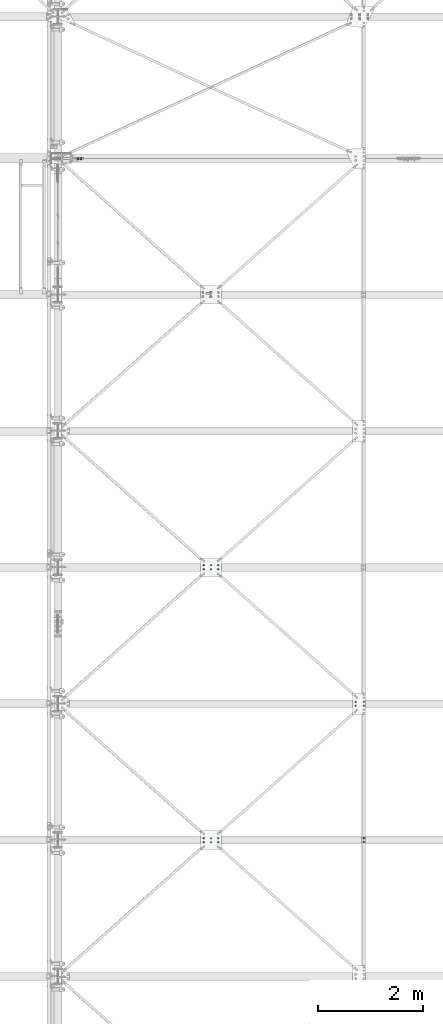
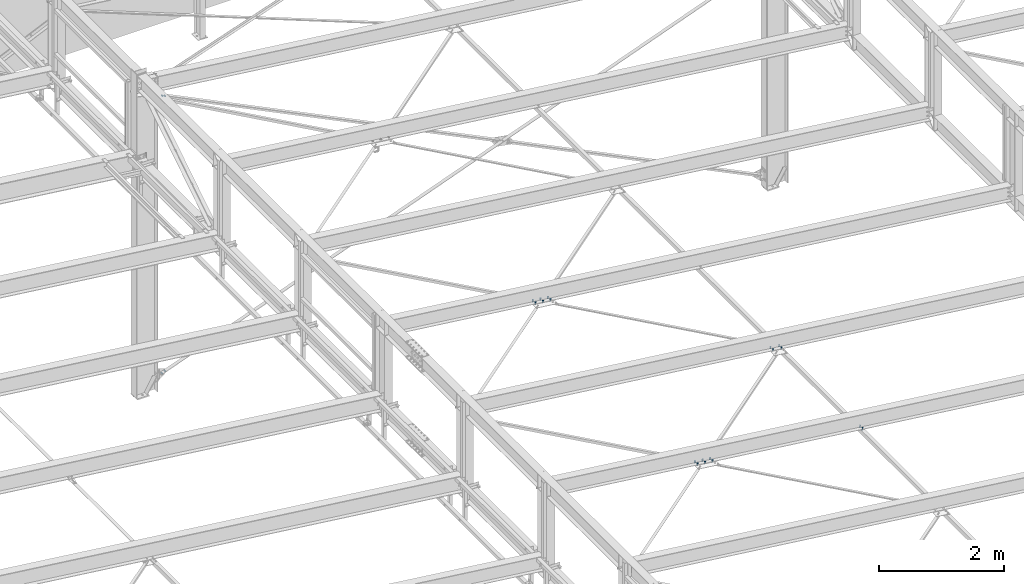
# One storey, part 286 of 3134: 6 mechanical fasteners, 6 elements without a shape of their own.
"""IFC2X3 building model written with IfcOpenShell, lengths in millimetres."""

from ifc_helpers import new_model, si_unit, frame, origin_with_axes, place, context, subcontext, project, spatial, faceted_brep, source, transform, mapped, material, type_object, element, aggregate, save


model = new_model("IFC2X3")

# Units and contexts
model_context = context("Model", 3, precision=1e-05, world=origin_with_axes())
body_context = subcontext(model_context, "Body", "Model", "MODEL_VIEW")
ifc_project = project(units=[si_unit("LENGTHUNIT", "METRE", prefix="MILLI"), si_unit("AREAUNIT", "SQUARE_METRE"), si_unit("VOLUMEUNIT", "CUBIC_METRE"), si_unit("MASSUNIT", "GRAM", prefix="KILO"), si_unit("TIMEUNIT", "SECOND"), si_unit("PLANEANGLEUNIT", "RADIAN"), si_unit("SOLIDANGLEUNIT", "STERADIAN"), si_unit("THERMODYNAMICTEMPERATUREUNIT", "DEGREE_CELSIUS"), si_unit("LUMINOUSINTENSITYUNIT", "LUMEN")], contexts=[model_context])

# Site, building, storey
site_placement = place(None, origin_with_axes())
site = spatial("IfcSite", under=ifc_project, at=site_placement, CompositionType="ELEMENT")
building_placement = place(site_placement, origin_with_axes())
building = spatial("IfcBuilding", under=site, at=building_placement, Name="Undefined", CompositionType="ELEMENT")
storey_placement = place(building_placement, origin_with_axes())
storey = spatial("IfcBuildingStorey", under=building, at=storey_placement, Name="Undefined", CompositionType="ELEMENT", Elevation=0.0)

# Assembly, mechanical fastener
assembly_1_placement = place(storey_placement, origin_with_axes())
assembly_1 = element("IfcElementAssembly", 1, at=assembly_1_placement, inside=storey, Name="300", AssemblyPlace="NOTDEFINED", PredefinedType="RIGID_FRAME")
ifc_material = material(Name="8.8")
mechanical_fastener_type = type_object("IfcMechanicalFastenerType", Name="Bolt assembly")
shared_shape_1 = source(origin_with_axes(), body_context, "Body", "Brep", [
    faceted_brep([(13.856406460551, -19.199990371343, 0.0), (6.92820323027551, -19.199990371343, 12.0), (-6.92820323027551, -19.199990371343, 12.0), (-13.856406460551, -19.199990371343, 1.69692038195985e-15), (-6.92820323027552, -19.199990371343, -12.0), (6.9282032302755, -19.199990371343, -12.0), (6.9282032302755, -9.19999037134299, -12.0), (-6.92820323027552, -9.19999037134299, -12.0), (-13.856406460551, -9.19999037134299, 1.69692038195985e-15), (-6.92820323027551, -9.19999037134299, 12.0), (6.92820323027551, -9.19999037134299, 12.0), (13.856406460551, -9.19999037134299, 0.0), (8.0, -9.19999037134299, 0.0), (6.92820323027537, -9.19999037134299, 4.00000000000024), (3.99999999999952, -9.19999037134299, 6.92820323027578), (-8.29068785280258e-13, -9.19999037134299, 8.0), (-4.00000000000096, -9.19999037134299, 6.92820323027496), (-6.9282032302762, -9.19999037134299, 3.99999999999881), (-8.0, -9.19999037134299, -1.65813757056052e-12), (-6.92820323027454, -9.19999037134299, -4.00000000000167), (-3.99999999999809, -9.19999037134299, -6.92820323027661), (2.47832457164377e-12, -9.19999037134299, -8.0), (4.00000000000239, -9.19999037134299, -6.92820323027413), (6.92820323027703, -9.19999037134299, -3.99999999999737), (6.92820323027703, 25.800009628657, -3.99999999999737), (4.00000000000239, 25.800009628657, -6.92820323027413), (2.47832457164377e-12, 25.800009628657, -8.0), (-3.99999999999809, 25.800009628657, -6.92820323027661), (-6.92820323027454, 25.800009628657, -4.00000000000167), (-8.0, 25.800009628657, -1.65813757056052e-12), (-6.9282032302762, 25.800009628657, 3.99999999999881), (-4.00000000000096, 25.800009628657, 6.92820323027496), (-8.29068785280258e-13, 25.800009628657, 8.0), (3.99999999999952, 25.800009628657, 6.92820323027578), (6.92820323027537, 25.800009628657, 4.00000000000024), (8.0, 25.800009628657, 0.0), (13.856406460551, 8.00000637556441, 0.0), (6.92820323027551, 8.00000637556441, 12.0), (-6.92820323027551, 8.00000637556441, 12.0), (-13.856406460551, 8.00000637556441, 1.69692038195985e-15), (-6.92820323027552, 8.00000637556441, -12.0), (6.9282032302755, 8.00000637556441, -12.0), (6.9282032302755, 21.0000063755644, -12.0), (-6.92820323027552, 21.0000063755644, -12.0), (-13.856406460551, 21.0000063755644, 1.69692038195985e-15), (-6.92820323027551, 21.0000063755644, 12.0), (6.92820323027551, 21.0000063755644, 12.0), (13.856406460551, 21.0000063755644, 0.0)], [[[0, 1, 2, 3, 4, 5]], [[6, 7, 8, 9, 10, 11]], [[0, 11, 10, 1]], [[1, 10, 9, 2]], [[2, 9, 8, 3]], [[3, 8, 7, 4]], [[4, 7, 6, 5]], [[5, 6, 11, 0]], [[12, 13, 14, 15, 16, 17, 18, 19, 20, 21, 22, 23]], [[24, 25, 26, 27, 28, 29, 30, 31, 32, 33, 34, 35]], [[12, 35, 34, 13]], [[13, 34, 33, 14]], [[14, 33, 32, 15]], [[15, 32, 31, 16]], [[16, 31, 30, 17]], [[17, 30, 29, 18]], [[18, 29, 28, 19]], [[19, 28, 27, 20]], [[20, 27, 26, 21]], [[21, 26, 25, 22]], [[22, 25, 24, 23]], [[23, 24, 35, 12]], [[36, 37, 38, 39, 40, 41]], [[42, 43, 44, 45, 46, 47]], [[36, 47, 46, 37]], [[37, 46, 45, 38]], [[38, 45, 44, 39]], [[39, 44, 43, 40]], [[40, 43, 42, 41]], [[41, 42, 47, 36]]]),
    faceted_brep([(9.0, -0.1, 0.0), (7.79422863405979, -0.1, 4.50000000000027), (4.49999999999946, -0.1, 7.79422863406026), (-9.3270238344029e-13, -0.1, 9.0), (-4.50000000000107, -0.1, 7.79422863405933), (-7.79422863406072, -0.1, 4.49999999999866), (-9.0, -0.1, -1.86540476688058e-12), (-7.79422863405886, -0.1, -4.50000000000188), (-4.49999999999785, -0.1, -7.79422863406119), (2.78811514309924e-12, -0.1, -9.0), (4.50000000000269, -0.1, -7.7942286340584), (7.79422863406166, -0.1, -4.49999999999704), (7.79422863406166, 8.00000000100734, -4.49999999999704), (4.50000000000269, 8.00000000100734, -7.7942286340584), (2.78811514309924e-12, 8.00000000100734, -9.0), (-4.49999999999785, 8.00000000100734, -7.79422863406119), (-7.79422863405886, 8.00000000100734, -4.50000000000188), (-9.0, 8.00000000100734, -1.86540476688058e-12), (-7.79422863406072, 8.00000000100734, 4.49999999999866), (-4.50000000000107, 8.00000000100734, 7.79422863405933), (-9.3270238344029e-13, 8.00000000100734, 9.0), (4.49999999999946, 8.00000000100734, 7.79422863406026), (7.79422863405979, 8.00000000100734, 4.50000000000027), (9.0, 8.00000000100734, 0.0), (9.0, -9.09999037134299, 0.0), (7.79422863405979, -9.09999037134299, 4.50000000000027), (4.49999999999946, -9.09999037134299, 7.79422863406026), (-9.3270238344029e-13, -9.09999037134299, 9.0), (-4.50000000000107, -9.09999037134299, 7.79422863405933), (-7.79422863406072, -9.09999037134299, 4.49999999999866), (-9.0, -9.09999037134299, -1.86540476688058e-12), (-7.79422863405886, -9.09999037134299, -4.50000000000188), (-4.49999999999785, -9.09999037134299, -7.79422863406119), (2.78811514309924e-12, -9.09999037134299, -9.0), (4.50000000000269, -9.09999037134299, -7.7942286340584), (7.79422863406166, -9.09999037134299, -4.49999999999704), (7.79422863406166, 0.100000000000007, -4.49999999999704), (4.50000000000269, 0.100000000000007, -7.7942286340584), (2.78811514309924e-12, 0.100000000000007, -9.0), (-4.49999999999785, 0.100000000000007, -7.79422863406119), (-7.79422863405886, 0.100000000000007, -4.50000000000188), (-9.0, 0.100000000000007, -1.86540476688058e-12), (-7.79422863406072, 0.100000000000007, 4.49999999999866), (-4.50000000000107, 0.100000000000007, 7.79422863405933), (-9.3270238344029e-13, 0.100000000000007, 9.0), (4.49999999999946, 0.100000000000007, 7.79422863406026), (7.79422863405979, 0.100000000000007, 4.50000000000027), (9.0, 0.100000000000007, 0.0)], [[[0, 1, 2, 3, 4, 5, 6, 7, 8, 9, 10, 11]], [[12, 13, 14, 15, 16, 17, 18, 19, 20, 21, 22, 23]], [[0, 23, 22, 1]], [[1, 22, 21, 2]], [[2, 21, 20, 3]], [[3, 20, 19, 4]], [[4, 19, 18, 5]], [[5, 18, 17, 6]], [[6, 17, 16, 7]], [[7, 16, 15, 8]], [[8, 15, 14, 9]], [[9, 14, 13, 10]], [[10, 13, 12, 11]], [[11, 12, 23, 0]], [[24, 25, 26, 27, 28, 29, 30, 31, 32, 33, 34, 35]], [[36, 37, 38, 39, 40, 41, 42, 43, 44, 45, 46, 47]], [[24, 47, 46, 25]], [[25, 46, 45, 26]], [[26, 45, 44, 27]], [[27, 44, 43, 28]], [[28, 43, 42, 29]], [[29, 42, 41, 30]], [[30, 41, 40, 31]], [[31, 40, 39, 32]], [[32, 39, 38, 33]], [[33, 38, 37, 34]], [[34, 37, 36, 35]], [[35, 36, 47, 24]]]),
])
mechanical_fastener_1_placement = place(assembly_1_placement, frame((49958.5751064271, 50612.0, 4816.43281405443), z_axis=(-0.992623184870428, 0.0, 0.121240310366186), x_axis=(0.0, 1.0, 0.0)))
mechanical_fastener_1 = element("IfcMechanicalFastener", 2, at=mechanical_fastener_1_placement, type_object=mechanical_fastener_type, material=ifc_material, Name="Bolt assembly", NominalDiameter=16.0, NominalLength=35.0, context=body_context, shape_type="MappedRepresentation", body=[
    mapped(shared_shape_1, transform((0.0, -5.32963895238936e-10, -79.9999999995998))),
    mapped(shared_shape_1, transform((76.0, -5.32963895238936e-10, -79.9999999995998))),
    mapped(shared_shape_1, transform((0.0, 5.3114490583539e-10, 79.9999999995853))),
    mapped(shared_shape_1, transform((76.0, 5.3114490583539e-10, 79.9999999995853))),
])
aggregate(assembly_1, [mechanical_fastener_1])

assembly_2_placement = place(storey_placement, origin_with_axes())
assembly_2 = element("IfcElementAssembly", 3, at=assembly_2_placement, inside=storey, AssemblyPlace="NOTDEFINED", PredefinedType="RIGID_FRAME")
shared_shape_2 = source(origin_with_axes(), body_context, "Body", "Brep", [
    faceted_brep([(13.856406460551, -19.199990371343, 0.0), (6.92820323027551, -19.199990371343, 12.0), (-6.92820323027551, -19.199990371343, 12.0), (-13.856406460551, -19.199990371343, 1.69692038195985e-15), (-6.92820323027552, -19.199990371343, -12.0), (6.9282032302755, -19.199990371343, -12.0), (6.9282032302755, -9.19999037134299, -12.0), (-6.92820323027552, -9.19999037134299, -12.0), (-13.856406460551, -9.19999037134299, 1.69692038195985e-15), (-6.92820323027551, -9.19999037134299, 12.0), (6.92820323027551, -9.19999037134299, 12.0), (13.856406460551, -9.19999037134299, 0.0), (8.0, -9.19999037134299, 0.0), (6.92820323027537, -9.19999037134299, 4.00000000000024), (3.99999999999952, -9.19999037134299, 6.92820323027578), (-8.29068785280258e-13, -9.19999037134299, 8.0), (-4.00000000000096, -9.19999037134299, 6.92820323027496), (-6.9282032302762, -9.19999037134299, 3.99999999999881), (-8.0, -9.19999037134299, -1.65813757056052e-12), (-6.92820323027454, -9.19999037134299, -4.00000000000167), (-3.99999999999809, -9.19999037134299, -6.92820323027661), (2.47832457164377e-12, -9.19999037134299, -8.0), (4.00000000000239, -9.19999037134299, -6.92820323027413), (6.92820323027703, -9.19999037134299, -3.99999999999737), (6.92820323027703, 35.8000002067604, -3.99999999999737), (4.00000000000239, 35.8000002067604, -6.92820323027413), (2.47832457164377e-12, 35.8000002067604, -8.0), (-3.99999999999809, 35.8000002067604, -6.92820323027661), (-6.92820323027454, 35.8000002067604, -4.00000000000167), (-8.0, 35.8000002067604, -1.65813757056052e-12), (-6.9282032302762, 35.8000002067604, 3.99999999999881), (-4.00000000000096, 35.8000002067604, 6.92820323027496), (-8.29068785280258e-13, 35.8000002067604, 8.0), (3.99999999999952, 35.8000002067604, 6.92820323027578), (6.92820323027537, 35.8000002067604, 4.00000000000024), (8.0, 35.8000002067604, 0.0), (13.856406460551, 14.9999995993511, 0.0), (6.92820323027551, 14.9999995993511, 12.0), (-6.92820323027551, 14.9999995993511, 12.0), (-13.856406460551, 14.9999995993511, 1.69692038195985e-15), (-6.92820323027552, 14.9999995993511, -12.0), (6.9282032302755, 14.9999995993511, -12.0), (6.9282032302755, 27.9999995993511, -12.0), (-6.92820323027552, 27.9999995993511, -12.0), (-13.856406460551, 27.9999995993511, 1.69692038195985e-15), (-6.92820323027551, 27.9999995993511, 12.0), (6.92820323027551, 27.9999995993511, 12.0), (13.856406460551, 27.9999995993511, 0.0)], [[[0, 1, 2, 3, 4, 5]], [[6, 7, 8, 9, 10, 11]], [[0, 11, 10, 1]], [[1, 10, 9, 2]], [[2, 9, 8, 3]], [[3, 8, 7, 4]], [[4, 7, 6, 5]], [[5, 6, 11, 0]], [[12, 13, 14, 15, 16, 17, 18, 19, 20, 21, 22, 23]], [[24, 25, 26, 27, 28, 29, 30, 31, 32, 33, 34, 35]], [[12, 35, 34, 13]], [[13, 34, 33, 14]], [[14, 33, 32, 15]], [[15, 32, 31, 16]], [[16, 31, 30, 17]], [[17, 30, 29, 18]], [[18, 29, 28, 19]], [[19, 28, 27, 20]], [[20, 27, 26, 21]], [[21, 26, 25, 22]], [[22, 25, 24, 23]], [[23, 24, 35, 12]], [[36, 37, 38, 39, 40, 41]], [[42, 43, 44, 45, 46, 47]], [[36, 47, 46, 37]], [[37, 46, 45, 38]], [[38, 45, 44, 39]], [[39, 44, 43, 40]], [[40, 43, 42, 41]], [[41, 42, 47, 36]]]),
    faceted_brep([(9.0, -9.09999037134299, 0.0), (7.79422863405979, -9.09999037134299, 4.50000000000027), (4.49999999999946, -9.09999037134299, 7.79422863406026), (-9.3270238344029e-13, -9.09999037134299, 9.0), (-4.50000000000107, -9.09999037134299, 7.79422863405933), (-7.79422863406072, -9.09999037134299, 4.49999999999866), (-9.0, -9.09999037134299, -1.86540476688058e-12), (-7.79422863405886, -9.09999037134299, -4.50000000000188), (-4.49999999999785, -9.09999037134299, -7.79422863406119), (2.78811514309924e-12, -9.09999037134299, -9.0), (4.50000000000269, -9.09999037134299, -7.7942286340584), (7.79422863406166, -9.09999037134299, -4.49999999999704), (7.79422863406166, 0.100000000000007, -4.49999999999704), (4.50000000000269, 0.100000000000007, -7.7942286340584), (2.78811514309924e-12, 0.100000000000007, -9.0), (-4.49999999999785, 0.100000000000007, -7.79422863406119), (-7.79422863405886, 0.100000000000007, -4.50000000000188), (-9.0, 0.100000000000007, -1.86540476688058e-12), (-7.79422863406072, 0.100000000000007, 4.49999999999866), (-4.50000000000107, 0.100000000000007, 7.79422863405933), (-9.3270238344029e-13, 0.100000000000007, 9.0), (4.49999999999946, 0.100000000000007, 7.79422863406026), (7.79422863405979, 0.100000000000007, 4.50000000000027), (9.0, 0.100000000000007, 0.0), (9.0, 7.9, 0.0), (7.79422863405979, 7.9, 4.50000000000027), (4.49999999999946, 7.9, 7.79422863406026), (-9.3270238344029e-13, 7.9, 9.0), (-4.50000000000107, 7.9, 7.79422863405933), (-7.79422863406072, 7.9, 4.49999999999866), (-9.0, 7.9, -1.86540476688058e-12), (-7.79422863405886, 7.9, -4.50000000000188), (-4.49999999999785, 7.9, -7.79422863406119), (2.78811514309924e-12, 7.9, -9.0), (4.50000000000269, 7.9, -7.7942286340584), (7.79422863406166, 7.9, -4.49999999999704), (7.79422863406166, 14.9999995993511, -4.49999999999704), (4.50000000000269, 14.9999995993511, -7.7942286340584), (2.78811514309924e-12, 14.9999995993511, -9.0), (-4.49999999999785, 14.9999995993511, -7.79422863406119), (-7.79422863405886, 14.9999995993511, -4.50000000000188), (-9.0, 14.9999995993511, -1.86540476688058e-12), (-7.79422863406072, 14.9999995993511, 4.49999999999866), (-4.50000000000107, 14.9999995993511, 7.79422863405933), (-9.3270238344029e-13, 14.9999995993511, 9.0), (4.49999999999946, 14.9999995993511, 7.79422863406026), (7.79422863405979, 14.9999995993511, 4.50000000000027), (9.0, 14.9999995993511, 0.0)], [[[0, 1, 2, 3, 4, 5, 6, 7, 8, 9, 10, 11]], [[12, 13, 14, 15, 16, 17, 18, 19, 20, 21, 22, 23]], [[0, 23, 22, 1]], [[1, 22, 21, 2]], [[2, 21, 20, 3]], [[3, 20, 19, 4]], [[4, 19, 18, 5]], [[5, 18, 17, 6]], [[6, 17, 16, 7]], [[7, 16, 15, 8]], [[8, 15, 14, 9]], [[9, 14, 13, 10]], [[10, 13, 12, 11]], [[11, 12, 23, 0]], [[24, 25, 26, 27, 28, 29, 30, 31, 32, 33, 34, 35]], [[36, 37, 38, 39, 40, 41, 42, 43, 44, 45, 46, 47]], [[24, 47, 46, 25]], [[25, 46, 45, 26]], [[26, 45, 44, 27]], [[27, 44, 43, 28]], [[28, 43, 42, 29]], [[29, 42, 41, 30]], [[30, 41, 40, 31]], [[31, 40, 39, 32]], [[32, 39, 38, 33]], [[33, 38, 37, 34]], [[34, 37, 36, 35]], [[35, 36, 47, 24]]]),
])
mechanical_fastener_2_placement = place(assembly_2_placement, frame((50037.9849612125, 48012.0, 4806.73358922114), z_axis=(-0.992623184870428, 0.0, 0.121240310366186), x_axis=(0.0, 1.0, 0.0)))
mechanical_fastener_2 = element("IfcMechanicalFastener", 4, at=mechanical_fastener_2_placement, type_object=mechanical_fastener_type, material=ifc_material, Name="Bolt assembly", NominalDiameter=16.0, NominalLength=45.0, context=body_context, shape_type="MappedRepresentation", body=[
    mapped(shared_shape_2, transform((0.0, 0.0, 0.0))),
    mapped(shared_shape_2, transform((76.0, 0.0, 0.0))),
])
aggregate(assembly_2, [mechanical_fastener_2])

assembly_3_placement = place(storey_placement, origin_with_axes())
assembly_3 = element("IfcElementAssembly", 5, at=assembly_3_placement, inside=storey, Name="300", AssemblyPlace="NOTDEFINED", PredefinedType="RIGID_FRAME")
shared_shape_3 = source(origin_with_axes(), body_context, "Body", "Brep", [
    faceted_brep([(10.9696551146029, -17.1999998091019, 0.0), (5.48482755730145, -17.1999998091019, 9.5), (-5.48482755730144, -17.1999998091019, 9.5), (-10.9696551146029, -17.1999998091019, 1.34339530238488e-15), (-5.48482755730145, -17.1999998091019, -9.5), (5.48482755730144, -17.1999998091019, -9.50000000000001), (5.48482755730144, -9.19999978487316, -9.50000000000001), (-5.48482755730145, -9.19999978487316, -9.5), (-10.9696551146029, -9.19999978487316, 1.34339530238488e-15), (-5.48482755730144, -9.19999978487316, 9.5), (5.48482755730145, -9.19999978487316, 9.5), (10.9696551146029, -9.19999978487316, 0.0), (6.0, -9.19999978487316, 0.0), (5.19615242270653, -9.19999978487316, 3.00000000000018), (2.99999999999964, -9.19999978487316, 5.19615242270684), (-6.21801588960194e-13, -9.19999978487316, 6.0), (-3.00000000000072, -9.19999978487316, 5.19615242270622), (-5.19615242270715, -9.19999978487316, 2.9999999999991), (-6.0, -9.19999978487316, -1.24360317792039e-12), (-5.19615242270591, -9.19999978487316, -3.00000000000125), (-2.99999999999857, -9.19999978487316, -5.19615242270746), (1.85874342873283e-12, -9.19999978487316, -6.0), (3.00000000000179, -9.19999978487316, -5.1961524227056), (5.19615242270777, -9.19999978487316, -2.99999999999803), (5.19615242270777, 25.8000002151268, -2.99999999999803), (3.00000000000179, 25.8000002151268, -5.1961524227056), (1.85874342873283e-12, 25.8000002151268, -6.0), (-2.99999999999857, 25.8000002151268, -5.19615242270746), (-5.19615242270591, 25.8000002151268, -3.00000000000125), (-6.0, 25.8000002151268, -1.24360317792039e-12), (-5.19615242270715, 25.8000002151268, 2.9999999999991), (-3.00000000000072, 25.8000002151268, 5.19615242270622), (-6.21801588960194e-13, 25.8000002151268, 6.0), (2.99999999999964, 25.8000002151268, 5.19615242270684), (5.19615242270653, 25.8000002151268, 3.00000000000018), (6.0, 25.8000002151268, 0.0), (10.9696551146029, 8.0, 0.0), (5.48482755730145, 8.0, 9.5), (-5.48482755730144, 8.0, 9.5), (-10.9696551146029, 8.0, 1.34339530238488e-15), (-5.48482755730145, 8.0, -9.5), (5.48482755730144, 8.0, -9.50000000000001), (5.48482755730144, 18.0, -9.50000000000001), (-5.48482755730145, 18.0, -9.5), (-10.9696551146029, 18.0, 1.34339530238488e-15), (-5.48482755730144, 18.0, 9.5), (5.48482755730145, 18.0, 9.5), (10.9696551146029, 18.0, 0.0)], [[[0, 1, 2, 3, 4, 5]], [[6, 7, 8, 9, 10, 11]], [[0, 11, 10, 1]], [[1, 10, 9, 2]], [[2, 9, 8, 3]], [[3, 8, 7, 4]], [[4, 7, 6, 5]], [[5, 6, 11, 0]], [[12, 13, 14, 15, 16, 17, 18, 19, 20, 21, 22, 23]], [[24, 25, 26, 27, 28, 29, 30, 31, 32, 33, 34, 35]], [[12, 35, 34, 13]], [[13, 34, 33, 14]], [[14, 33, 32, 15]], [[15, 32, 31, 16]], [[16, 31, 30, 17]], [[17, 30, 29, 18]], [[18, 29, 28, 19]], [[19, 28, 27, 20]], [[20, 27, 26, 21]], [[21, 26, 25, 22]], [[22, 25, 24, 23]], [[23, 24, 35, 12]], [[36, 37, 38, 39, 40, 41]], [[42, 43, 44, 45, 46, 47]], [[36, 47, 46, 37]], [[37, 46, 45, 38]], [[38, 45, 44, 39]], [[39, 44, 43, 40]], [[40, 43, 42, 41]], [[41, 42, 47, 36]]]),
    faceted_brep([(7.0, -0.1, 0.0), (6.06217782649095, -0.1, 3.50000000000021), (3.49999999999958, -0.1, 6.06217782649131), (-7.25435187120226e-13, -0.1, 7.0), (-3.50000000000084, -0.1, 6.06217782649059), (-6.06217782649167, -0.1, 3.49999999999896), (-7.0, -0.1, -1.45087037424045e-12), (-6.06217782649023, -0.1, -3.50000000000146), (-3.49999999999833, -0.1, -6.06217782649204), (2.1685340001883e-12, -0.1, -7.0), (3.50000000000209, -0.1, -6.06217782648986), (6.0621778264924, -0.1, -3.4999999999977), (6.0621778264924, 8.0000000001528, -3.4999999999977), (3.50000000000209, 8.0000000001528, -6.06217782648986), (2.1685340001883e-12, 8.0000000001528, -7.0), (-3.49999999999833, 8.0000000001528, -6.06217782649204), (-6.06217782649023, 8.0000000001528, -3.50000000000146), (-7.0, 8.0000000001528, -1.45087037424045e-12), (-6.06217782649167, 8.0000000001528, 3.49999999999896), (-3.50000000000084, 8.0000000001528, 6.06217782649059), (-7.25435187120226e-13, 8.0000000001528, 7.0), (3.49999999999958, 8.0000000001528, 6.06217782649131), (6.06217782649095, 8.0000000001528, 3.50000000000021), (7.0, 8.0000000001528, 0.0), (7.0, -9.09999980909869, 0.0), (6.06217782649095, -9.09999980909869, 3.50000000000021), (3.49999999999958, -9.09999980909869, 6.06217782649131), (-7.25435187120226e-13, -9.09999980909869, 7.0), (-3.50000000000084, -9.09999980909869, 6.06217782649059), (-6.06217782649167, -9.09999980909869, 3.49999999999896), (-7.0, -9.09999980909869, -1.45087037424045e-12), (-6.06217782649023, -9.09999980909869, -3.50000000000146), (-3.49999999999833, -9.09999980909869, -6.06217782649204), (2.1685340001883e-12, -9.09999980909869, -7.0), (3.50000000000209, -9.09999980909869, -6.06217782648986), (6.0621778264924, -9.09999980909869, -3.4999999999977), (6.0621778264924, 0.0999999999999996, -3.4999999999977), (3.50000000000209, 0.0999999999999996, -6.06217782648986), (2.1685340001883e-12, 0.0999999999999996, -7.0), (-3.49999999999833, 0.0999999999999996, -6.06217782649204), (-6.06217782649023, 0.0999999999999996, -3.50000000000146), (-7.0, 0.0999999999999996, -1.45087037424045e-12), (-6.06217782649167, 0.0999999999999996, 3.49999999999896), (-3.50000000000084, 0.0999999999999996, 6.06217782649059), (-7.25435187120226e-13, 0.0999999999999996, 7.0), (3.49999999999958, 0.0999999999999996, 6.06217782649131), (6.06217782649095, 0.0999999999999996, 3.50000000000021), (7.0, 0.0999999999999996, 0.0)], [[[0, 1, 2, 3, 4, 5, 6, 7, 8, 9, 10, 11]], [[12, 13, 14, 15, 16, 17, 18, 19, 20, 21, 22, 23]], [[0, 23, 22, 1]], [[1, 22, 21, 2]], [[2, 21, 20, 3]], [[3, 20, 19, 4]], [[4, 19, 18, 5]], [[5, 18, 17, 6]], [[6, 17, 16, 7]], [[7, 16, 15, 8]], [[8, 15, 14, 9]], [[9, 14, 13, 10]], [[10, 13, 12, 11]], [[11, 12, 23, 0]], [[24, 25, 26, 27, 28, 29, 30, 31, 32, 33, 34, 35]], [[36, 37, 38, 39, 40, 41, 42, 43, 44, 45, 46, 47]], [[24, 47, 46, 25]], [[25, 46, 45, 26]], [[26, 45, 44, 27]], [[27, 44, 43, 28]], [[28, 43, 42, 29]], [[29, 42, 41, 30]], [[30, 41, 40, 31]], [[31, 40, 39, 32]], [[32, 39, 38, 33]], [[33, 38, 37, 34]], [[34, 37, 36, 35]], [[35, 36, 47, 24]]]),
])
mechanical_fastener_3_placement = place(assembly_3_placement, frame((47258.2022067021, 53250.0, 5146.25993625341), z_axis=(0.0, -1.0, 0.0), x_axis=(-0.992623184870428, 0.0, 0.121240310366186)))
mechanical_fastener_3 = element("IfcMechanicalFastener", 6, at=mechanical_fastener_3_placement, type_object=mechanical_fastener_type, material=ifc_material, Name="Bolt assembly", NominalDiameter=12.0, NominalLength=35.0, context=body_context, shape_type="MappedRepresentation", body=[
    mapped(shared_shape_3, transform((0.0, 0.0, -38.0))),
    mapped(shared_shape_3, transform((140.000000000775, 5.85714587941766e-10, -38.0))),
    mapped(shared_shape_3, transform((279.999999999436, -4.74756234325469e-10, -38.0))),
    mapped(shared_shape_3, transform((0.0, 0.0, 38.0))),
    mapped(shared_shape_3, transform((140.000000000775, 5.85714587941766e-10, 38.0))),
    mapped(shared_shape_3, transform((279.999999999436, -4.74756234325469e-10, 38.0))),
])
aggregate(assembly_3, [mechanical_fastener_3])

assembly_4_placement = place(storey_placement, origin_with_axes())
assembly_4 = element("IfcElementAssembly", 7, at=assembly_4_placement, inside=storey, Name="300", AssemblyPlace="NOTDEFINED", PredefinedType="RIGID_FRAME")
mechanical_fastener_4_placement = place(assembly_4_placement, frame((47258.2022067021, 48050.0, 5146.25993625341), z_axis=(0.0, -1.0, 0.0), x_axis=(-0.992623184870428, 0.0, 0.121240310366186)))
mechanical_fastener_4 = element("IfcMechanicalFastener", 8, at=mechanical_fastener_4_placement, type_object=mechanical_fastener_type, material=ifc_material, Name="Bolt assembly", NominalDiameter=12.0, NominalLength=35.0, context=body_context, shape_type="MappedRepresentation", body=[
    mapped(shared_shape_3, transform((0.0, 0.0, -38.0))),
    mapped(shared_shape_3, transform((140.000000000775, 5.85714587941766e-10, -38.0))),
    mapped(shared_shape_3, transform((279.999999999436, -4.74756234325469e-10, -38.0))),
    mapped(shared_shape_3, transform((0.0, 0.0, 38.0))),
    mapped(shared_shape_3, transform((140.000000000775, 5.85714587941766e-10, 38.0))),
    mapped(shared_shape_3, transform((279.999999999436, -4.74756234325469e-10, 38.0))),
])
aggregate(assembly_4, [mechanical_fastener_4])

assembly_5_placement = place(storey_placement, origin_with_axes())
assembly_5 = element("IfcElementAssembly", 9, at=assembly_5_placement, inside=storey, AssemblyPlace="NOTDEFINED", PredefinedType="RIGID_FRAME")
shared_shape_4 = source(origin_with_axes(), body_context, "Body", "Brep", [
    faceted_brep([(13.856406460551, -21.0000017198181, 0.0), (6.92820323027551, -21.0000017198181, 12.0), (-6.92820323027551, -21.0000017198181, 12.0), (-13.856406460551, -21.0000017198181, 1.69692038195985e-15), (-6.92820323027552, -21.0000017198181, -12.0), (6.9282032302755, -21.0000017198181, -12.0), (6.9282032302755, -11.0000017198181, -12.0), (-6.92820323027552, -11.0000017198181, -12.0), (-13.856406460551, -11.0000017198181, 1.69692038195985e-15), (-6.92820323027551, -11.0000017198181, 12.0), (6.92820323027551, -11.0000017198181, 12.0), (13.856406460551, -11.0000017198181, 0.0), (8.0, -11.0000017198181, 0.0), (6.92820323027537, -11.0000017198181, 4.00000000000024), (3.99999999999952, -11.0000017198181, 6.92820323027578), (-8.29068785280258e-13, -11.0000017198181, 8.0), (-4.00000000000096, -11.0000017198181, 6.92820323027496), (-6.9282032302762, -11.0000017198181, 3.99999999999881), (-8.0, -11.0000017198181, -1.65813757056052e-12), (-6.92820323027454, -11.0000017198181, -4.00000000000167), (-3.99999999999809, -11.0000017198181, -6.92820323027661), (2.47832457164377e-12, -11.0000017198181, -8.0), (4.00000000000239, -11.0000017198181, -6.92820323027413), (6.92820323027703, -11.0000017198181, -3.99999999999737), (6.92820323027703, 23.9999999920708, -3.99999999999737), (4.00000000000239, 23.9999999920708, -6.92820323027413), (2.47832457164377e-12, 23.9999999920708, -8.0), (-3.99999999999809, 23.9999999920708, -6.92820323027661), (-6.92820323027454, 23.9999999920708, -4.00000000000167), (-8.0, 23.9999999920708, -1.65813757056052e-12), (-6.9282032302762, 23.9999999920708, 3.99999999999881), (-4.00000000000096, 23.9999999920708, 6.92820323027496), (-8.29068785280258e-13, 23.9999999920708, 8.0), (3.99999999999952, 23.9999999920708, 6.92820323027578), (6.92820323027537, 23.9999999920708, 4.00000000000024), (8.0, 23.9999999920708, 0.0), (13.856406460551, 3.99999999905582, 0.0), (6.92820323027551, 3.99999999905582, 12.0), (-6.92820323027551, 3.99999999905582, 12.0), (-13.856406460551, 3.99999999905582, 1.69692038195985e-15), (-6.92820323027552, 3.99999999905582, -12.0), (6.9282032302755, 3.99999999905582, -12.0), (6.9282032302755, 16.9999999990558, -12.0), (-6.92820323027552, 16.9999999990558, -12.0), (-13.856406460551, 16.9999999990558, 1.69692038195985e-15), (-6.92820323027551, 16.9999999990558, 12.0), (6.92820323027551, 16.9999999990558, 12.0), (13.856406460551, 16.9999999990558, 0.0)], [[[0, 1, 2, 3, 4, 5]], [[6, 7, 8, 9, 10, 11]], [[0, 11, 10, 1]], [[1, 10, 9, 2]], [[2, 9, 8, 3]], [[3, 8, 7, 4]], [[4, 7, 6, 5]], [[5, 6, 11, 0]], [[12, 13, 14, 15, 16, 17, 18, 19, 20, 21, 22, 23]], [[24, 25, 26, 27, 28, 29, 30, 31, 32, 33, 34, 35]], [[12, 35, 34, 13]], [[13, 34, 33, 14]], [[14, 33, 32, 15]], [[15, 32, 31, 16]], [[16, 31, 30, 17]], [[17, 30, 29, 18]], [[18, 29, 28, 19]], [[19, 28, 27, 20]], [[20, 27, 26, 21]], [[21, 26, 25, 22]], [[22, 25, 24, 23]], [[23, 24, 35, 12]], [[36, 37, 38, 39, 40, 41]], [[42, 43, 44, 45, 46, 47]], [[36, 47, 46, 37]], [[37, 46, 45, 38]], [[38, 45, 44, 39]], [[39, 44, 43, 40]], [[40, 43, 42, 41]], [[41, 42, 47, 36]]]),
    faceted_brep([(9.0, -4.10000000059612, 0.0), (7.79422863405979, -4.10000000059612, 4.50000000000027), (4.49999999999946, -4.10000000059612, 7.79422863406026), (-9.3270238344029e-13, -4.10000000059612, 9.0), (-4.50000000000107, -4.10000000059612, 7.79422863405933), (-7.79422863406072, -4.10000000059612, 4.49999999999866), (-9.0, -4.10000000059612, -1.86540476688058e-12), (-7.79422863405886, -4.10000000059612, -4.50000000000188), (-4.49999999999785, -4.10000000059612, -7.79422863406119), (2.78811514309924e-12, -4.10000000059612, -9.0), (4.50000000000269, -4.10000000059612, -7.7942286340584), (7.79422863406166, -4.10000000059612, -4.49999999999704), (7.79422863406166, 4.00000375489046, -4.49999999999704), (4.50000000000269, 4.00000375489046, -7.7942286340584), (2.78811514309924e-12, 4.00000375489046, -9.0), (-4.49999999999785, 4.00000375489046, -7.79422863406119), (-7.79422863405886, 4.00000375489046, -4.50000000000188), (-9.0, 4.00000375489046, -1.86540476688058e-12), (-7.79422863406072, 4.00000375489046, 4.49999999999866), (-4.50000000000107, 4.00000375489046, 7.79422863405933), (-9.3270238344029e-13, 4.00000375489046, 9.0), (4.49999999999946, 4.00000375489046, 7.79422863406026), (7.79422863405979, 4.00000375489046, 4.50000000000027), (9.0, 4.00000375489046, 0.0), (9.0, -10.9000017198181, 0.0), (7.79422863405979, -10.9000017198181, 4.50000000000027), (4.49999999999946, -10.9000017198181, 7.79422863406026), (-9.3270238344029e-13, -10.9000017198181, 9.0), (-4.50000000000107, -10.9000017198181, 7.79422863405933), (-7.79422863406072, -10.9000017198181, 4.49999999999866), (-9.0, -10.9000017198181, -1.86540476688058e-12), (-7.79422863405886, -10.9000017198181, -4.50000000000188), (-4.49999999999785, -10.9000017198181, -7.79422863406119), (2.78811514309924e-12, -10.9000017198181, -9.0), (4.50000000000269, -10.9000017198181, -7.7942286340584), (7.79422863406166, -10.9000017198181, -4.49999999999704), (7.79422863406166, -3.9, -4.49999999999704), (4.50000000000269, -3.9, -7.7942286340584), (2.78811514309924e-12, -3.9, -9.0), (-4.49999999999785, -3.9, -7.79422863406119), (-7.79422863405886, -3.9, -4.50000000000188), (-9.0, -3.9, -1.86540476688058e-12), (-7.79422863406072, -3.9, 4.49999999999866), (-4.50000000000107, -3.9, 7.79422863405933), (-9.3270238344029e-13, -3.9, 9.0), (4.49999999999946, -3.9, 7.79422863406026), (7.79422863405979, -3.9, 4.50000000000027), (9.0, -3.9, 0.0)], [[[0, 1, 2, 3, 4, 5, 6, 7, 8, 9, 10, 11]], [[12, 13, 14, 15, 16, 17, 18, 19, 20, 21, 22, 23]], [[0, 23, 22, 1]], [[1, 22, 21, 2]], [[2, 21, 20, 3]], [[3, 20, 19, 4]], [[4, 19, 18, 5]], [[5, 18, 17, 6]], [[6, 17, 16, 7]], [[7, 16, 15, 8]], [[8, 15, 14, 9]], [[9, 14, 13, 10]], [[10, 13, 12, 11]], [[11, 12, 23, 0]], [[24, 25, 26, 27, 28, 29, 30, 31, 32, 33, 34, 35]], [[36, 37, 38, 39, 40, 41, 42, 43, 44, 45, 46, 47]], [[24, 47, 46, 25]], [[25, 46, 45, 26]], [[26, 45, 44, 27]], [[27, 44, 43, 28]], [[28, 43, 42, 29]], [[29, 42, 41, 30]], [[30, 41, 40, 31]], [[31, 40, 39, 32]], [[32, 39, 38, 33]], [[33, 38, 37, 34]], [[34, 37, 36, 35]], [[35, 36, 47, 24]]]),
])
mechanical_fastener_5_placement = place(assembly_5_placement, frame((44586.8867952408, 61050.0, -104.807745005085), z_axis=(-0.347632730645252, 0.0, 0.937630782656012), x_axis=(0.937630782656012, 0.0, 0.347632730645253)))
mechanical_fastener_5 = element("IfcMechanicalFastener", 10, at=mechanical_fastener_5_placement, type_object=mechanical_fastener_type, material=ifc_material, Name="Bolt assembly", NominalDiameter=16.0, NominalLength=35.0, context=body_context, shape_type="MappedRepresentation", body=[
    mapped(shared_shape_4, transform((0.0, 0.0, 0.0))),
    mapped(shared_shape_4, transform((59.9999999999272, 0.0, 5.40239852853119e-10))),
])
aggregate(assembly_5, [mechanical_fastener_5])

assembly_6_placement = place(storey_placement, origin_with_axes())
assembly_6 = element("IfcElementAssembly", 11, at=assembly_6_placement, inside=storey, AssemblyPlace="NOTDEFINED", PredefinedType="RIGID_FRAME")
mechanical_fastener_6_placement = place(assembly_6_placement, frame((44590.6543199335, 61050.0, 5327.63267581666), z_axis=(0.440953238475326, 0.0, 0.897530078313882), x_axis=(0.897530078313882, 0.0, -0.440953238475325)))
mechanical_fastener_6 = element("IfcMechanicalFastener", 12, at=mechanical_fastener_6_placement, type_object=mechanical_fastener_type, material=ifc_material, Name="Bolt assembly", NominalDiameter=16.0, NominalLength=35.0, context=body_context, shape_type="MappedRepresentation", body=[
    mapped(shared_shape_4, transform((0.0, 0.0, 0.0))),
    mapped(shared_shape_4, transform((59.9999999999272, 0.0, 5.40239852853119e-10))),
])
aggregate(assembly_6, [mechanical_fastener_6])

save(model, "model.ifc")
